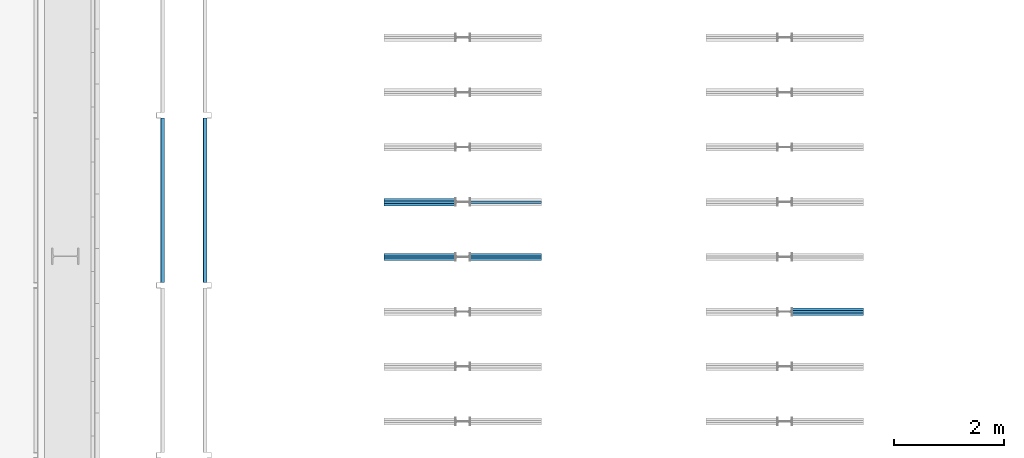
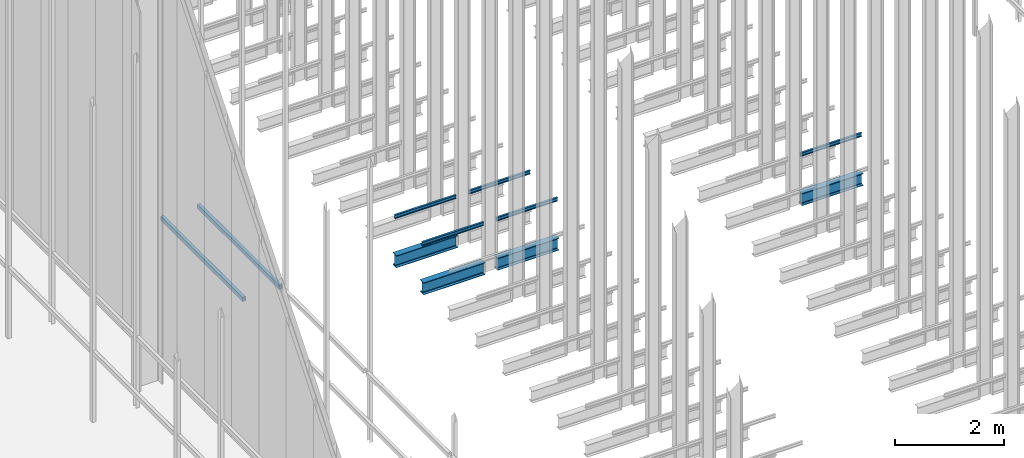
# One storey, part 171 of 302: 11 beams.
"""IFC2X3 building model written with IfcOpenShell, lengths in metres."""

import ifcopenshell
import ifcopenshell.guid

model = None  # the IFC model being written
_history = None  # IfcOwnerHistory: only IFC2X3 demands one
_inside = {}  # id of a spatial element -> (the spatial element, [elements in it])
_under = {}  # id of a project, library or spatial element -> (it, [spatial elements below it])
_declared = {}  # id of a project -> (the project, [libraries it declares])
_typed = {}  # id of a type object -> (the type object, [elements of that type])
_made_of = {}  # id of a material, layer set ... -> (it, [elements and type objects made of it])


def new_model(schema):
    """Start an empty IFC model of exactly this schema.

    Asked for "IFC4X3", IfcOpenShell would pick the latest addendum, in which some entities
    have other attributes; the version numbers below select the first issue.
    IFC2X3 requires an IfcOwnerHistory on every rooted entity: one is made here for all.
    """
    global model, _history
    if schema == "IFC4X3":
        model = ifcopenshell.file(schema_version=(4, 3, 0, 0))
    else:
        model = ifcopenshell.file(schema=schema)
    _inside.clear()
    _under.clear()
    _declared.clear()
    _typed.clear()
    _made_of.clear()
    _history = None
    if model.schema == "IFC2X3":
        org = make("IfcOrganization", Name="unknown")
        user = make(
            "IfcPersonAndOrganization",
            ThePerson=make("IfcPerson", FamilyName="unknown"),
            TheOrganization=org,
        )
        app = make(
            "IfcApplication",
            ApplicationDeveloper=org,
            Version="unknown",
            ApplicationFullName="unknown",
            ApplicationIdentifier="unknown",
        )
        _history = make(
            "IfcOwnerHistory",
            OwningUser=user,
            OwningApplication=app,
            ChangeAction="ADDED",
            CreationDate=0,
        )
    return model


def make(cls, **values):
    """One entity of the class cls with the attributes given. An attribute that is None is left unset."""
    return model.create_entity(
        cls, **{name: value for name, value in values.items() if value is not None}
    )


def entity(cls, *values):
    """Any entity or typed value of the class cls, its attributes in the order of the schema. None: left unset."""
    e = model.create_entity(cls)
    for i, value in enumerate(values):
        if value is not None:
            e[i] = value
    return e


def rooted(cls, **values):
    """An entity with a GlobalId (a new one), such as an element, a storey or a relation."""
    return make(cls, GlobalId=ifcopenshell.guid.new(), OwnerHistory=_history, **values)


def si_unit(unit_type, name, prefix=None):
    """IfcSIUnit, for example si_unit("LENGTHUNIT", "METRE", prefix="MILLI")."""
    return make("IfcSIUnit", UnitType=unit_type, Prefix=prefix, Name=name)


def converted_unit(unit_type, name, factor, base, dimensions=None, offset=None):
    """IfcConversionBasedUnit, such as the inch: factor (a typed value) times the base unit."""
    return make(
        "IfcConversionBasedUnit"
        if offset is None
        else "IfcConversionBasedUnitWithOffset",
        ConversionOffset=offset,
        Dimensions=None
        if dimensions is None
        else entity("IfcDimensionalExponents", *dimensions),
        UnitType=unit_type,
        Name=name,
        ConversionFactor=make(
            "IfcMeasureWithUnit", ValueComponent=factor, UnitComponent=base
        ),
    )


def derived_unit(unit_type, elements):
    """IfcDerivedUnit: a product of units, each with its exponent."""
    return make(
        "IfcDerivedUnit",
        Elements=[
            make("IfcDerivedUnitElement", Unit=unit, Exponent=power)
            for unit, power in elements
        ],
        UnitType=unit_type,
    )


def assignment(units):
    """IfcUnitAssignment: the units of a project."""
    return None if units is None else make("IfcUnitAssignment", Units=units)


def point(xyz):
    """IfcCartesianPoint."""
    return None if xyz is None else make("IfcCartesianPoint", Coordinates=xyz)


def direction(xyz):
    """IfcDirection."""
    return None if xyz is None else make("IfcDirection", DirectionRatios=xyz)


def frame(location, z_axis=None, x_axis=None):
    """IfcAxis2Placement3D, a coordinate frame: its origin and axes. An axis left out is left unset."""
    return make(
        "IfcAxis2Placement3D",
        Location=point(location),
        Axis=direction(z_axis),
        RefDirection=direction(x_axis),
    )


def frame_2d(location, x_axis=None):
    """IfcAxis2Placement2D, a coordinate frame in the plane: its origin and x axis."""
    return make(
        "IfcAxis2Placement2D", Location=point(location), RefDirection=direction(x_axis)
    )


def origin():
    """The frame at (0, 0, 0) with its axes left unset."""
    return frame((0.0, 0.0, 0.0))


def place(relative_to, where):
    """IfcLocalPlacement: puts the frame where relative to a parent placement (None: the world)."""
    return make(
        "IfcLocalPlacement", PlacementRelTo=relative_to, RelativePlacement=where
    )


def context(
    kind, dimensions, precision=None, world=None, true_north=None, identifier=None
):
    """IfcGeometricRepresentationContext, for example the 3D "Model" context."""
    return make(
        "IfcGeometricRepresentationContext",
        ContextIdentifier=identifier,
        ContextType=kind,
        CoordinateSpaceDimension=dimensions,
        Precision=precision,
        WorldCoordinateSystem=world,
        TrueNorth=true_north,
    )


def subcontext(parent, identifier, kind, view, scale=None):
    """IfcGeometricRepresentationSubContext, for example "Body" below "Model"."""
    return make(
        "IfcGeometricRepresentationSubContext",
        ContextIdentifier=identifier,
        ContextType=kind,
        ParentContext=parent,
        TargetScale=scale,
        TargetView=view,
    )


def project(units=None, contexts=None):
    """IfcProject with its units and contexts."""
    return rooted(
        "IfcProject",
        Name="project",
        RepresentationContexts=contexts,
        UnitsInContext=assignment(units),
    )


def spatial(cls, under=None, at=None, **own):
    """A site, building, storey or space (cls), placed at a placement, below another one or the project."""
    s = rooted(cls, ObjectPlacement=at, **own)
    if under is not None:
        _under.setdefault(under.id(), (under, []))[1].append(s)
    return s


def polyline(points):
    """IfcPolyline through the points."""
    return make("IfcPolyline", Points=[point(p) for p in points])


def circle_curve(where, radius):
    """IfcCircle in the frame where."""
    return make("IfcCircle", Position=where, Radius=radius)


def parameter(value):
    """IfcParameterValue: where a trimmed curve begins or ends, as a parameter of its basis curve."""
    return model.create_entity("IfcParameterValue", value)


def trimmed(basis, trim1, trim2, sense, master):
    """IfcTrimmedCurve: the piece of a basis curve between two trims."""
    return make(
        "IfcTrimmedCurve",
        BasisCurve=basis,
        Trim1=trim1,
        Trim2=trim2,
        SenseAgreement=sense,
        MasterRepresentation=master,
    )


def segment(curve, same_sense, transition):
    """IfcCompositeCurveSegment."""
    return make(
        "IfcCompositeCurveSegment",
        Transition=transition,
        SameSense=same_sense,
        ParentCurve=curve,
    )


def composite_curve(segments, self_intersect=None):
    """IfcCompositeCurve: segments joined end to end."""
    return make("IfcCompositeCurve", Segments=segments, SelfIntersect=self_intersect)


def profile(cls, at=None, kind="AREA", **sizes):
    """A parametric profile (cls). Its sizes go by their IFC names, for example OverallWidth=200.0."""
    return make(cls, ProfileType=kind, Position=at, **sizes)


def i_section(**sizes):
    """IfcIShapeProfileDef."""
    return profile("IfcIShapeProfileDef", **sizes)


def outline(outer, holes=None, kind="AREA"):
    """IfcArbitraryClosedProfileDef: a profile drawn as a closed curve; with holes, ...WithVoids."""
    if holes is None:
        return make("IfcArbitraryClosedProfileDef", ProfileType=kind, OuterCurve=outer)
    return make(
        "IfcArbitraryProfileDefWithVoids",
        ProfileType=kind,
        OuterCurve=outer,
        InnerCurves=holes,
    )


def extrude(swept, where, along, depth):
    """IfcExtrudedAreaSolid: the profile swept, set in the frame where, extruded along a direction by depth."""
    return make(
        "IfcExtrudedAreaSolid",
        SweptArea=swept,
        Position=where,
        ExtrudedDirection=direction(along),
        Depth=depth,
    )


def shape(context_of_items, identifier, shape_type, items):
    """IfcShapeRepresentation: the items that make up one representation, for example the "Body"."""
    return make(
        "IfcShapeRepresentation",
        ContextOfItems=context_of_items,
        RepresentationIdentifier=identifier,
        RepresentationType=shape_type,
        Items=items,
    )


def material(Name=None, Category=None):
    """IfcMaterial."""
    return make("IfcMaterial", Name=Name, Category=Category)


def made_of(thing, what):
    """Note that an element or type object is made of a material, layer set ...; save() writes the relation."""
    if what is not None:
        _made_of.setdefault(what.id(), (what, []))[1].append(thing)
    return thing


def type_object(cls, material=None, **own):
    """A type object (cls), such as IfcWallType, which elements share."""
    return made_of(rooted(cls, **own), material)


def element(
    cls,
    number,
    at=None,
    inside=None,
    cuts=None,
    type_object=None,
    material=None,
    context=None,
    identifier="Body",
    shape_type=None,
    held_by="IfcProductDefinitionShape",
    body=None,
    shapes=None,
    **own,
):
    """One element of the class cls, such as IfcWall. Its Tag is "e" and its number.

    at: its placement. inside: the storey or other place that contains it. cuts: it is an
    opening in that element (IfcRelVoidsElement). A single representation is given by context,
    identifier, shape_type and body (its items); several are given by shapes. held_by: the class
    of the entity that holds the representations. save() writes the other relations.
    """
    e = rooted(cls, Tag="e%d" % number, ObjectPlacement=at, **own)
    if body is not None:
        shapes = [shape(context, identifier, shape_type, body)]
    if shapes is not None:
        e.Representation = make(held_by, Representations=shapes)
    if inside is not None:
        _inside.setdefault(inside.id(), (inside, []))[1].append(e)
    if cuts is not None:
        rooted(
            "IfcRelVoidsElement", RelatingBuildingElement=cuts, RelatedOpeningElement=e
        )
    if type_object is not None:
        _typed.setdefault(type_object.id(), (type_object, []))[1].append(e)
    return made_of(e, material)


def aggregate(whole, parts):
    """IfcRelAggregates: a whole, such as a stair, and the parts it consists of."""
    return rooted("IfcRelAggregates", RelatingObject=whole, RelatedObjects=parts)


def save(model, path):
    """Write the relations noted so far, then the file.

    IfcRelAggregates (storeys below a building ...), IfcRelContainedInSpatialStructure (elements
    in a storey), IfcRelDefinesByType, IfcRelAssociatesMaterial and IfcRelDeclares: one each for
    every whole, place, type object, material and project.
    """
    for whole, parts in _under.values():
        aggregate(whole, parts)
    for where, things in _inside.values():
        rooted(
            "IfcRelContainedInSpatialStructure",
            RelatedElements=things,
            RelatingStructure=where,
        )
    for kind, things in _typed.values():
        rooted("IfcRelDefinesByType", RelatedObjects=things, RelatingType=kind)
    for what, things in _made_of.values():
        rooted("IfcRelAssociatesMaterial", RelatedObjects=things, RelatingMaterial=what)
    for by, libraries in _declared.values():
        rooted("IfcRelDeclares", RelatingContext=by, RelatedDefinitions=libraries)
    model.write(path)


model = new_model("IFC2X3")

# Units and contexts
model_context = context("Model", 3, precision=1e-05, world=origin(), true_north=direction((6.12303176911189e-17, 1.0)))
body_context = subcontext(model_context, "Body", "Model", "MODEL_VIEW")
ifc_project = project(units=[si_unit("LENGTHUNIT", "METRE"), si_unit("AREAUNIT", "SQUARE_METRE"), si_unit("VOLUMEUNIT", "CUBIC_METRE"), converted_unit("PLANEANGLEUNIT", "DEGREE", entity("IfcRatioMeasure", 0.0174532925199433), si_unit("PLANEANGLEUNIT", "RADIAN"), dimensions=[0, 0, 0, 0, 0, 0, 0]), si_unit("MASSUNIT", "GRAM", prefix="KILO"), derived_unit("MASSDENSITYUNIT", [(si_unit("MASSUNIT", "GRAM", prefix="KILO"), 1), (si_unit("LENGTHUNIT", "METRE"), -3)]), derived_unit("MOMENTOFINERTIAUNIT", [(si_unit("LENGTHUNIT", "METRE"), 4)]), si_unit("TIMEUNIT", "SECOND"), si_unit("FREQUENCYUNIT", "HERTZ"), si_unit("THERMODYNAMICTEMPERATUREUNIT", "DEGREE_CELSIUS"), derived_unit("THERMALTRANSMITTANCEUNIT", [(si_unit("MASSUNIT", "GRAM", prefix="KILO"), 1), (si_unit("THERMODYNAMICTEMPERATUREUNIT", "KELVIN"), -1), (si_unit("TIMEUNIT", "SECOND"), -3)]), derived_unit("VOLUMETRICFLOWRATEUNIT", [(si_unit("LENGTHUNIT", "METRE"), 3), (si_unit("TIMEUNIT", "SECOND"), -1)]), si_unit("ELECTRICCURRENTUNIT", "AMPERE"), si_unit("ELECTRICVOLTAGEUNIT", "VOLT"), si_unit("POWERUNIT", "WATT"), si_unit("FORCEUNIT", "NEWTON", prefix="KILO"), si_unit("ILLUMINANCEUNIT", "LUX"), si_unit("LUMINOUSFLUXUNIT", "LUMEN"), si_unit("LUMINOUSINTENSITYUNIT", "CANDELA"), derived_unit("USERDEFINED", [(si_unit("MASSUNIT", "GRAM", prefix="KILO"), -1), (si_unit("LENGTHUNIT", "METRE"), -2), (si_unit("TIMEUNIT", "SECOND"), 3), (si_unit("LUMINOUSFLUXUNIT", "LUMEN"), 1)]), derived_unit("LINEARVELOCITYUNIT", [(si_unit("LENGTHUNIT", "METRE"), 1), (si_unit("TIMEUNIT", "SECOND"), -1)]), si_unit("PRESSUREUNIT", "PASCAL"), derived_unit("USERDEFINED", [(si_unit("LENGTHUNIT", "METRE"), -2), (si_unit("MASSUNIT", "GRAM", prefix="KILO"), 1), (si_unit("TIMEUNIT", "SECOND"), -2)]), derived_unit("LINEARFORCEUNIT", [(si_unit("MASSUNIT", "GRAM", prefix="KILO"), 1), (si_unit("LENGTHUNIT", "METRE"), 1), (si_unit("TIMEUNIT", "SECOND"), -2), (si_unit("LENGTHUNIT", "METRE"), -1)]), derived_unit("PLANARFORCEUNIT", [(si_unit("MASSUNIT", "GRAM", prefix="KILO"), 1), (si_unit("LENGTHUNIT", "METRE"), 1), (si_unit("TIMEUNIT", "SECOND"), -2), (si_unit("LENGTHUNIT", "METRE"), -2)])], contexts=[model_context])

# Site, building, storey
site_placement = place(None, origin())
site = spatial("IfcSite", under=ifc_project, at=site_placement, Name="Default", CompositionType="ELEMENT")
building_placement = place(site_placement, origin())
building = spatial("IfcBuilding", under=site, at=building_placement, CompositionType="ELEMENT")
storey_placement = place(building_placement, frame((0.0, 0.0, -1.3)))
storey = spatial("IfcBuildingStorey", under=building, at=storey_placement, Name="00_EG", CompositionType="ELEMENT", Elevation=-1.3)

# Beams
ifc_material_1 = material(Name="Metall - Baustahl S235 blau")
beam_type_1 = type_object("IfcBeamType", Name="RHS Träger (EN 10219-2):RHS 100 x 75 x 5", PredefinedType="NOTDEFINED")
beam_1_placement = place(storey_placement, frame((-175.305111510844, 39.5480889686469, 2.885), z_axis=(0.0, 0.0, 1.0), x_axis=(0.0, 1.0, 0.0)))
element("IfcBeam", 1, at=beam_1_placement, inside=storey, type_object=beam_type_1, material=ifc_material_1, Name="RHS Träger (EN 10219-2):RHS 100 x 75 x 5", ObjectType="RHS Träger (EN 10219-2):RHS 100 x 75 x 5", context=body_context, shape_type="SweptSolid", body=[
    extrude(outline(composite_curve([segment(trimmed(circle_curve(frame_2d((-0.0274999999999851, -0.0400000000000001), x_axis=(1.0, 0.0)), 0.01), [parameter(180.0)], [parameter(270.0)], True, "PARAMETER"), True, "CONTINUOUS"), segment(polyline([(-0.0274999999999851, -0.05), (0.0274999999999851, -0.05)]), True, "CONTINUOUS"), segment(trimmed(circle_curve(frame_2d((0.0274999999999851, -0.0400000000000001), x_axis=(1.0, 0.0)), 0.01), [parameter(270.0)], [parameter(5.08888749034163e-14)], True, "PARAMETER"), True, "CONTINUOUS"), segment(polyline([(0.0375000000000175, -0.0399999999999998), (0.0375000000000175, 0.0400000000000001)]), True, "CONTINUOUS"), segment(trimmed(circle_curve(frame_2d((0.0274999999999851, 0.0399999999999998), x_axis=(1.0, 0.0)), 0.01), [parameter(360.0)], [parameter(89.9999999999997)], True, "PARAMETER"), True, "CONTINUOUS"), segment(polyline([(0.0274999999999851, 0.05), (-0.0274999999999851, 0.05)]), True, "CONTINUOUS"), segment(trimmed(circle_curve(frame_2d((-0.0274999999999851, 0.0399999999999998), x_axis=(1.0, 0.0)), 0.01), [parameter(90.0000000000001)], [parameter(180.0)], True, "PARAMETER"), True, "CONTINUOUS"), segment(polyline([(-0.0374999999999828, 0.0400000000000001), (-0.0374999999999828, -0.0399999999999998)]), True, "CONTINUOUS")], self_intersect=False), holes=[composite_curve([segment(polyline([(0.0274999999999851, -0.0450000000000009), (-0.0274999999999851, -0.0450000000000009)]), True, "CONTINUOUS"), segment(trimmed(circle_curve(frame_2d((-0.0274999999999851, -0.0400000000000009), x_axis=(1.0, 0.0)), 0.005), [parameter(180.0)], [parameter(270.0)], True, "PARAMETER"), False, "CONTINUOUS"), segment(polyline([(-0.0325000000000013, -0.0400000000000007), (-0.0325000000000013, 0.0399999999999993)]), True, "CONTINUOUS"), segment(trimmed(circle_curve(frame_2d((-0.0274999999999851, 0.039999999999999), x_axis=(1.0, 0.0)), 0.005), [parameter(90.0000000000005)], [parameter(180.0)], True, "PARAMETER"), False, "CONTINUOUS"), segment(polyline([(-0.0274999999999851, 0.0449999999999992), (0.0274999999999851, 0.0449999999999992)]), True, "CONTINUOUS"), segment(trimmed(circle_curve(frame_2d((0.0274999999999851, 0.039999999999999), x_axis=(1.0, 0.0)), 0.005), [parameter(0.0)], [parameter(90.0000000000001)], True, "PARAMETER"), False, "CONTINUOUS"), segment(polyline([(0.0325000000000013, 0.0399999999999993), (0.0325000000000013, -0.0400000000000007)]), True, "CONTINUOUS"), segment(trimmed(circle_curve(frame_2d((0.0274999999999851, -0.0400000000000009), x_axis=(1.0, 0.0)), 0.005), [parameter(270.0)], [parameter(4.07110999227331e-13)], True, "PARAMETER"), False, "CONTINUOUS")], self_intersect=False)]), frame((9.99999999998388e-05, 0.0375000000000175, -0.0500000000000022), z_axis=(1.0, 0.0, 0.0), x_axis=(0.0, -1.0, 0.0)), (0.0, 0.0, 1.0), 2.99979999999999),
])
beam_2_placement = place(storey_placement, frame((-176.155111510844, 39.5480889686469, 2.885), z_axis=(0.0, 0.0, 1.0), x_axis=(0.0, 1.0, 0.0)))
element("IfcBeam", 2, at=beam_2_placement, inside=storey, type_object=beam_type_1, material=ifc_material_1, Name="RHS Träger (EN 10219-2):RHS 100 x 75 x 5", ObjectType="RHS Träger (EN 10219-2):RHS 100 x 75 x 5", context=body_context, shape_type="SweptSolid", body=[
    extrude(outline(composite_curve([segment(polyline([(-0.0399999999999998, -0.0374999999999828), (0.0400000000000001, -0.0374999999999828)]), True, "CONTINUOUS"), segment(trimmed(circle_curve(frame_2d((0.0399999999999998, -0.0274999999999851), x_axis=(0.0, 1.0)), 0.01), [parameter(180.0)], [parameter(270.0)], True, "PARAMETER"), True, "CONTINUOUS"), segment(polyline([(0.05, -0.0274999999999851), (0.05, 0.0274999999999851)]), True, "CONTINUOUS"), segment(trimmed(circle_curve(frame_2d((0.0399999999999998, 0.0274999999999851), x_axis=(0.0, 1.0)), 0.01), [parameter(270.0)], [parameter(4.07110999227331e-13)], True, "PARAMETER"), True, "CONTINUOUS"), segment(polyline([(0.0400000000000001, 0.0375000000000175), (-0.0399999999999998, 0.0375000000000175)]), True, "CONTINUOUS"), segment(trimmed(circle_curve(frame_2d((-0.0400000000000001, 0.0274999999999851), x_axis=(0.0, 1.0)), 0.01), [parameter(360.0)], [parameter(90.0000000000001)], True, "PARAMETER"), True, "CONTINUOUS"), segment(polyline([(-0.05, 0.0274999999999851), (-0.05, -0.0274999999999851)]), True, "CONTINUOUS"), segment(trimmed(circle_curve(frame_2d((-0.0400000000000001, -0.0274999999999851), x_axis=(0.0, 1.0)), 0.01), [parameter(90.0000000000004)], [parameter(180.0)], True, "PARAMETER"), True, "CONTINUOUS")], self_intersect=False), holes=[composite_curve([segment(trimmed(circle_curve(frame_2d((-0.0400000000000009, 0.0274999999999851), x_axis=(0.0, 1.0)), 0.005), [parameter(360.0)], [parameter(89.9999999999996)], True, "PARAMETER"), False, "CONTINUOUS"), segment(polyline([(-0.0400000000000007, 0.0325000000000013), (0.0399999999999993, 0.0325000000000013)]), True, "CONTINUOUS"), segment(trimmed(circle_curve(frame_2d((0.039999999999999, 0.0274999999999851), x_axis=(0.0, 1.0)), 0.005), [parameter(270.0)], [parameter(0.0)], True, "PARAMETER"), False, "CONTINUOUS"), segment(polyline([(0.0449999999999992, 0.0274999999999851), (0.0449999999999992, -0.0274999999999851)]), True, "CONTINUOUS"), segment(trimmed(circle_curve(frame_2d((0.039999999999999, -0.0274999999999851), x_axis=(0.0, 1.0)), 0.005), [parameter(180.0)], [parameter(269.999999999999)], True, "PARAMETER"), False, "CONTINUOUS"), segment(polyline([(0.0399999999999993, -0.0325000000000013), (-0.0400000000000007, -0.0325000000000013)]), True, "CONTINUOUS"), segment(trimmed(circle_curve(frame_2d((-0.0400000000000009, -0.0274999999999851), x_axis=(0.0, 1.0)), 0.005), [parameter(90.0000000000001)], [parameter(180.0)], True, "PARAMETER"), False, "CONTINUOUS"), segment(polyline([(-0.0450000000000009, -0.0274999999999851), (-0.0450000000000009, 0.0274999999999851)]), True, "CONTINUOUS")], self_intersect=False)]), frame((9.99999999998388e-05, -0.0375000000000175, -0.0500000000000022), z_axis=(1.0, 0.0, 0.0), x_axis=(0.0, 0.0, -1.0)), (0.0, 0.0, 1.0), 2.99979999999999),
])
ifc_material_2 = material(Name="Metall - Baustahl S235")
beam_type_2 = type_object("IfcBeamType", Name="IPN Träger:IPN 80", PredefinedType="NOTDEFINED")
beam_3_placement = place(storey_placement, frame((-170.510111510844, 40.9945889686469, 2.42)))
element("IfcBeam", 3, at=beam_3_placement, inside=storey, type_object=beam_type_2, material=ifc_material_2, Name="IPN Träger:IPN 80", ObjectType="IPN Träger:IPN 80", context=body_context, shape_type="SweptSolid", body=[
    extrude(outline(composite_curve([segment(polyline([(0.0375704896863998, -0.0209999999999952), (0.0399999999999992, -0.0209999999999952)]), True, "CONTINUOUS"), segment(polyline([(0.0399999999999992, -0.0209999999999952), (0.0399999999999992, 0.0210000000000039)]), True, "CONTINUOUS"), segment(polyline([(0.039999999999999, 0.0210000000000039), (0.037570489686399, 0.0210000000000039)]), True, "CONTINUOUS"), segment(trimmed(circle_curve(frame_2d((0.0375704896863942, 0.0187000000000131), x_axis=(0.0, 1.0)), 0.0022999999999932), [parameter(0.0)], [parameter(82.0300000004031)], True, "PARAMETER"), True, "CONTINUOUS"), segment(polyline([(0.0352927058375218, 0.0190189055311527), (0.0333732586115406, 0.0053092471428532)]), True, "CONTINUOUS"), segment(trimmed(circle_curve(frame_2d((0.0295109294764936, 0.005850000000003), x_axis=(0.990340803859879, -0.138654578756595)), 0.00389999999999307), [parameter(277.969999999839)], [parameter(0.0)], True, "PARAMETER"), False, "CONTINUOUS"), segment(polyline([(0.0295109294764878, 0.00195000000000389), (-0.0295109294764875, 0.00195000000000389)]), True, "CONTINUOUS"), segment(trimmed(circle_curve(frame_2d((-0.0295109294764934, 0.005850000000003), x_axis=(0.0, -1.0)), 0.00389999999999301), [parameter(277.969999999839)], [parameter(0.0)], True, "PARAMETER"), False, "CONTINUOUS"), segment(polyline([(-0.0333732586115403, 0.0053092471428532), (-0.0352927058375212, 0.0190189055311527)]), True, "CONTINUOUS"), segment(trimmed(circle_curve(frame_2d((-0.0375704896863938, 0.0187000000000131), x_axis=(0.990340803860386, 0.138654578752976)), 0.00229999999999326), [parameter(0.0)], [parameter(82.0300000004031)], True, "PARAMETER"), True, "CONTINUOUS"), segment(polyline([(-0.0375704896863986, 0.0210000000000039), (-0.0400000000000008, 0.0210000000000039)]), True, "CONTINUOUS"), segment(polyline([(-0.0400000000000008, 0.0210000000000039), (-0.0400000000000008, -0.0209999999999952)]), True, "CONTINUOUS"), segment(polyline([(-0.0400000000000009, -0.0209999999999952), (-0.037570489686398, -0.0209999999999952)]), True, "CONTINUOUS"), segment(trimmed(circle_curve(frame_2d((-0.0375704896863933, -0.0186999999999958), x_axis=(0.0, -1.0)), 0.00229999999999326), [parameter(0.0)], [parameter(82.0300000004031)], True, "PARAMETER"), True, "CONTINUOUS"), segment(polyline([(-0.0352927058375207, -0.0190189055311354), (-0.0333732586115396, -0.00530924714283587)]), True, "CONTINUOUS"), segment(trimmed(circle_curve(frame_2d((-0.0295109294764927, -0.00584999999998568), x_axis=(-0.990340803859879, 0.138654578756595)), 0.00389999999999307), [parameter(277.969999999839)], [parameter(0.0)], True, "PARAMETER"), False, "CONTINUOUS"), segment(polyline([(-0.0295109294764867, -0.00194999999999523), (0.0295109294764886, -0.00194999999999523)]), True, "CONTINUOUS"), segment(trimmed(circle_curve(frame_2d((0.0295109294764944, -0.00584999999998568), x_axis=(0.0, 1.0)), 0.00389999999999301), [parameter(277.969999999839)], [parameter(0.0)], True, "PARAMETER"), False, "CONTINUOUS"), segment(polyline([(0.0333732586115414, -0.00530924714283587), (0.0352927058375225, -0.0190189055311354)]), True, "CONTINUOUS"), segment(trimmed(circle_curve(frame_2d((0.0375704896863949, -0.0186999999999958), x_axis=(-0.990340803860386, -0.138654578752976)), 0.00229999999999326), [parameter(0.0)], [parameter(82.0300000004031)], True, "PARAMETER"), True, "CONTINUOUS")], self_intersect=False)), frame((0.000100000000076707, 0.0209999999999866, -0.0400000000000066), z_axis=(1.0, 0.0, 0.0), x_axis=(0.0, 0.0, -1.0)), (0.0, 0.0, 1.0), 1.29990000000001),
])
beam_4_placement = place(storey_placement, frame((-170.780111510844, 41.036588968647, 2.42), z_axis=(0.0, 0.0, 1.0), x_axis=(-1.0, 0.0, 0.0)))
element("IfcBeam", 4, at=beam_4_placement, inside=storey, type_object=beam_type_2, material=ifc_material_2, Name="IPN Träger:IPN 80", ObjectType="IPN Träger:IPN 80", context=body_context, shape_type="SweptSolid", body=[
    extrude(outline(composite_curve([segment(polyline([(0.0375704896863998, -0.0210000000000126), (0.0399999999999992, -0.0210000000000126)]), True, "CONTINUOUS"), segment(polyline([(0.0399999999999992, -0.0210000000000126), (0.0399999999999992, 0.0209999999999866)]), True, "CONTINUOUS"), segment(polyline([(0.039999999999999, 0.0209999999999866), (0.037570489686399, 0.0209999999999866)]), True, "CONTINUOUS"), segment(trimmed(circle_curve(frame_2d((0.0375704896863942, 0.0186999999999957), x_axis=(0.0, 1.0)), 0.0022999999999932), [parameter(0.0)], [parameter(82.0300000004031)], True, "PARAMETER"), True, "CONTINUOUS"), segment(polyline([(0.0352927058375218, 0.0190189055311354), (0.0333732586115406, 0.00530924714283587)]), True, "CONTINUOUS"), segment(trimmed(circle_curve(frame_2d((0.0295109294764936, 0.00584999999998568), x_axis=(0.990340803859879, -0.138654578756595)), 0.00389999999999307), [parameter(277.969999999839)], [parameter(0.0)], True, "PARAMETER"), False, "CONTINUOUS"), segment(polyline([(0.0295109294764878, 0.00194999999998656), (-0.0295109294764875, 0.00194999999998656)]), True, "CONTINUOUS"), segment(trimmed(circle_curve(frame_2d((-0.0295109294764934, 0.00584999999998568), x_axis=(0.0, -1.0)), 0.00389999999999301), [parameter(277.969999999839)], [parameter(0.0)], True, "PARAMETER"), False, "CONTINUOUS"), segment(polyline([(-0.0333732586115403, 0.00530924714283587), (-0.0352927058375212, 0.0190189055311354)]), True, "CONTINUOUS"), segment(trimmed(circle_curve(frame_2d((-0.0375704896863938, 0.0186999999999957), x_axis=(0.990340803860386, 0.138654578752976)), 0.00229999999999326), [parameter(0.0)], [parameter(82.0300000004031)], True, "PARAMETER"), True, "CONTINUOUS"), segment(polyline([(-0.0375704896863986, 0.0209999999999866), (-0.0400000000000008, 0.0209999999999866)]), True, "CONTINUOUS"), segment(polyline([(-0.0400000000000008, 0.0209999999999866), (-0.0400000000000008, -0.0210000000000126)]), True, "CONTINUOUS"), segment(polyline([(-0.0400000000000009, -0.0210000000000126), (-0.037570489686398, -0.0210000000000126)]), True, "CONTINUOUS"), segment(trimmed(circle_curve(frame_2d((-0.0375704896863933, -0.0187000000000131), x_axis=(0.0, -1.0)), 0.00229999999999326), [parameter(0.0)], [parameter(82.0300000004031)], True, "PARAMETER"), True, "CONTINUOUS"), segment(polyline([(-0.0352927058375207, -0.0190189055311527), (-0.0333732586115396, -0.0053092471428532)]), True, "CONTINUOUS"), segment(trimmed(circle_curve(frame_2d((-0.0295109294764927, -0.005850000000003), x_axis=(-0.990340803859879, 0.138654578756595)), 0.00389999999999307), [parameter(277.969999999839)], [parameter(0.0)], True, "PARAMETER"), False, "CONTINUOUS"), segment(polyline([(-0.0295109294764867, -0.00195000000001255), (0.0295109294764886, -0.00195000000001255)]), True, "CONTINUOUS"), segment(trimmed(circle_curve(frame_2d((0.0295109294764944, -0.005850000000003), x_axis=(0.0, 1.0)), 0.00389999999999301), [parameter(277.969999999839)], [parameter(0.0)], True, "PARAMETER"), False, "CONTINUOUS"), segment(polyline([(0.0333732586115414, -0.0053092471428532), (0.0352927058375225, -0.0190189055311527)]), True, "CONTINUOUS"), segment(trimmed(circle_curve(frame_2d((0.0375704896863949, -0.0187000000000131), x_axis=(-0.990340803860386, -0.138654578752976)), 0.00229999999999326), [parameter(0.0)], [parameter(82.0300000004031)], True, "PARAMETER"), True, "CONTINUOUS")], self_intersect=False)), frame((0.000100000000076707, 0.0210000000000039, -0.0400000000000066), z_axis=(1.0, 0.0, 0.0), x_axis=(0.0, 0.0, -1.0)), (0.0, 0.0, 1.0), 1.29990000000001),
])
beam_5_placement = place(storey_placement, frame((-170.510111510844, 39.9945889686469, 2.42)))
element("IfcBeam", 5, at=beam_5_placement, inside=storey, type_object=beam_type_2, material=ifc_material_2, Name="IPN Träger:IPN 80", ObjectType="IPN Träger:IPN 80", context=body_context, shape_type="SweptSolid", body=[
    extrude(outline(composite_curve([segment(polyline([(0.0375704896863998, -0.0209999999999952), (0.0399999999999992, -0.0209999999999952)]), True, "CONTINUOUS"), segment(polyline([(0.0399999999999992, -0.0209999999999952), (0.0399999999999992, 0.0210000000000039)]), True, "CONTINUOUS"), segment(polyline([(0.039999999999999, 0.0210000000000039), (0.037570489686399, 0.0210000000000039)]), True, "CONTINUOUS"), segment(trimmed(circle_curve(frame_2d((0.0375704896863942, 0.0187000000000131), x_axis=(0.0, 1.0)), 0.0022999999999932), [parameter(0.0)], [parameter(82.0300000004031)], True, "PARAMETER"), True, "CONTINUOUS"), segment(polyline([(0.0352927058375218, 0.0190189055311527), (0.0333732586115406, 0.0053092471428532)]), True, "CONTINUOUS"), segment(trimmed(circle_curve(frame_2d((0.0295109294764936, 0.005850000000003), x_axis=(0.990340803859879, -0.138654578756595)), 0.00389999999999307), [parameter(277.969999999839)], [parameter(0.0)], True, "PARAMETER"), False, "CONTINUOUS"), segment(polyline([(0.0295109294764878, 0.00195000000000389), (-0.0295109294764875, 0.00195000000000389)]), True, "CONTINUOUS"), segment(trimmed(circle_curve(frame_2d((-0.0295109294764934, 0.005850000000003), x_axis=(0.0, -1.0)), 0.00389999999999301), [parameter(277.969999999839)], [parameter(0.0)], True, "PARAMETER"), False, "CONTINUOUS"), segment(polyline([(-0.0333732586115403, 0.0053092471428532), (-0.0352927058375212, 0.0190189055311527)]), True, "CONTINUOUS"), segment(trimmed(circle_curve(frame_2d((-0.0375704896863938, 0.0187000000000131), x_axis=(0.990340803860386, 0.138654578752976)), 0.00229999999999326), [parameter(0.0)], [parameter(82.0300000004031)], True, "PARAMETER"), True, "CONTINUOUS"), segment(polyline([(-0.0375704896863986, 0.0210000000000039), (-0.0400000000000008, 0.0210000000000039)]), True, "CONTINUOUS"), segment(polyline([(-0.0400000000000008, 0.0210000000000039), (-0.0400000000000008, -0.0209999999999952)]), True, "CONTINUOUS"), segment(polyline([(-0.0400000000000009, -0.0209999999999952), (-0.037570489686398, -0.0209999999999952)]), True, "CONTINUOUS"), segment(trimmed(circle_curve(frame_2d((-0.0375704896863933, -0.0186999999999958), x_axis=(0.0, -1.0)), 0.00229999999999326), [parameter(0.0)], [parameter(82.0300000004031)], True, "PARAMETER"), True, "CONTINUOUS"), segment(polyline([(-0.0352927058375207, -0.0190189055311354), (-0.0333732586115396, -0.00530924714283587)]), True, "CONTINUOUS"), segment(trimmed(circle_curve(frame_2d((-0.0295109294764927, -0.00584999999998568), x_axis=(-0.990340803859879, 0.138654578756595)), 0.00389999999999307), [parameter(277.969999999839)], [parameter(0.0)], True, "PARAMETER"), False, "CONTINUOUS"), segment(polyline([(-0.0295109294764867, -0.00194999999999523), (0.0295109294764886, -0.00194999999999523)]), True, "CONTINUOUS"), segment(trimmed(circle_curve(frame_2d((0.0295109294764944, -0.00584999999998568), x_axis=(0.0, 1.0)), 0.00389999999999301), [parameter(277.969999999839)], [parameter(0.0)], True, "PARAMETER"), False, "CONTINUOUS"), segment(polyline([(0.0333732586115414, -0.00530924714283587), (0.0352927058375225, -0.0190189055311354)]), True, "CONTINUOUS"), segment(trimmed(circle_curve(frame_2d((0.0375704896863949, -0.0186999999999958), x_axis=(-0.990340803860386, -0.138654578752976)), 0.00229999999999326), [parameter(0.0)], [parameter(82.0300000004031)], True, "PARAMETER"), True, "CONTINUOUS")], self_intersect=False)), frame((0.000100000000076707, 0.0209999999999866, -0.0400000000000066), z_axis=(1.0, 0.0, 0.0), x_axis=(0.0, 0.0, -1.0)), (0.0, 0.0, 1.0), 1.29990000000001),
])
beam_6_placement = place(storey_placement, frame((-170.780111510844, 40.036588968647, 2.42), z_axis=(0.0, 0.0, 1.0), x_axis=(-1.0, 0.0, 0.0)))
element("IfcBeam", 6, at=beam_6_placement, inside=storey, type_object=beam_type_2, material=ifc_material_2, Name="IPN Träger:IPN 80", ObjectType="IPN Träger:IPN 80", context=body_context, shape_type="SweptSolid", body=[
    extrude(outline(composite_curve([segment(polyline([(0.0375704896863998, -0.0210000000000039), (0.0399999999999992, -0.0210000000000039)]), True, "CONTINUOUS"), segment(polyline([(0.0399999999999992, -0.0210000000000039), (0.0399999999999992, 0.0209999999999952)]), True, "CONTINUOUS"), segment(polyline([(0.039999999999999, 0.0209999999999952), (0.037570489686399, 0.0209999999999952)]), True, "CONTINUOUS"), segment(trimmed(circle_curve(frame_2d((0.0375704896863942, 0.0187000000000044), x_axis=(0.0, 1.0)), 0.0022999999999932), [parameter(0.0)], [parameter(82.0300000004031)], True, "PARAMETER"), True, "CONTINUOUS"), segment(polyline([(0.0352927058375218, 0.019018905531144), (0.0333732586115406, 0.00530924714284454)]), True, "CONTINUOUS"), segment(trimmed(circle_curve(frame_2d((0.0295109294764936, 0.00584999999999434), x_axis=(0.990340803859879, -0.138654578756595)), 0.00389999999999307), [parameter(277.969999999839)], [parameter(0.0)], True, "PARAMETER"), False, "CONTINUOUS"), segment(polyline([(0.0295109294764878, 0.00194999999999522), (-0.0295109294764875, 0.00194999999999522)]), True, "CONTINUOUS"), segment(trimmed(circle_curve(frame_2d((-0.0295109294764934, 0.00584999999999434), x_axis=(0.0, -1.0)), 0.00389999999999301), [parameter(277.969999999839)], [parameter(0.0)], True, "PARAMETER"), False, "CONTINUOUS"), segment(polyline([(-0.0333732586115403, 0.00530924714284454), (-0.0352927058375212, 0.019018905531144)]), True, "CONTINUOUS"), segment(trimmed(circle_curve(frame_2d((-0.0375704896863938, 0.0187000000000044), x_axis=(0.990340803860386, 0.138654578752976)), 0.00229999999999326), [parameter(0.0)], [parameter(82.0300000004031)], True, "PARAMETER"), True, "CONTINUOUS"), segment(polyline([(-0.0375704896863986, 0.0209999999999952), (-0.0400000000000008, 0.0209999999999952)]), True, "CONTINUOUS"), segment(polyline([(-0.0400000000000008, 0.0209999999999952), (-0.0400000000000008, -0.0210000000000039)]), True, "CONTINUOUS"), segment(polyline([(-0.0400000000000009, -0.0210000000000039), (-0.037570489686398, -0.0210000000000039)]), True, "CONTINUOUS"), segment(trimmed(circle_curve(frame_2d((-0.0375704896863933, -0.0187000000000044), x_axis=(0.0, -1.0)), 0.00229999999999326), [parameter(0.0)], [parameter(82.0300000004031)], True, "PARAMETER"), True, "CONTINUOUS"), segment(polyline([(-0.0352927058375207, -0.019018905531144), (-0.0333732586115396, -0.00530924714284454)]), True, "CONTINUOUS"), segment(trimmed(circle_curve(frame_2d((-0.0295109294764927, -0.00584999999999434), x_axis=(-0.990340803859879, 0.138654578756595)), 0.00389999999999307), [parameter(277.969999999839)], [parameter(0.0)], True, "PARAMETER"), False, "CONTINUOUS"), segment(polyline([(-0.0295109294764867, -0.00195000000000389), (0.0295109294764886, -0.00195000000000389)]), True, "CONTINUOUS"), segment(trimmed(circle_curve(frame_2d((0.0295109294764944, -0.00584999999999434), x_axis=(0.0, 1.0)), 0.00389999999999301), [parameter(277.969999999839)], [parameter(0.0)], True, "PARAMETER"), False, "CONTINUOUS"), segment(polyline([(0.0333732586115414, -0.00530924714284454), (0.0352927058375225, -0.019018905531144)]), True, "CONTINUOUS"), segment(trimmed(circle_curve(frame_2d((0.0375704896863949, -0.0187000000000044), x_axis=(-0.990340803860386, -0.138654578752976)), 0.00229999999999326), [parameter(0.0)], [parameter(82.0300000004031)], True, "PARAMETER"), True, "CONTINUOUS")], self_intersect=False)), frame((0.000100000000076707, 0.0209999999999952, -0.0400000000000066), z_axis=(1.0, 0.0, 0.0), x_axis=(0.0, 0.0, -1.0)), (0.0, 0.0, 1.0), 1.29990000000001),
])
beam_7_placement = place(storey_placement, frame((-164.640111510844, 38.994588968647, 2.42)))
element("IfcBeam", 7, at=beam_7_placement, inside=storey, type_object=beam_type_2, material=ifc_material_2, Name="IPN Träger:IPN 80", ObjectType="IPN Träger:IPN 80", context=body_context, shape_type="SweptSolid", body=[
    extrude(outline(composite_curve([segment(polyline([(0.0375704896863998, -0.0209999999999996), (0.0399999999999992, -0.0209999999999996)]), True, "CONTINUOUS"), segment(polyline([(0.0399999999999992, -0.0210000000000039), (0.0399999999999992, 0.0209999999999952)]), True, "CONTINUOUS"), segment(polyline([(0.039999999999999, 0.0209999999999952), (0.037570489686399, 0.0209999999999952)]), True, "CONTINUOUS"), segment(trimmed(circle_curve(frame_2d((0.0375704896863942, 0.0187000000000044), x_axis=(0.0, 1.0)), 0.0022999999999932), [parameter(0.0)], [parameter(82.0300000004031)], True, "PARAMETER"), True, "CONTINUOUS"), segment(polyline([(0.0352927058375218, 0.019018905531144), (0.0333732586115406, 0.00530924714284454)]), True, "CONTINUOUS"), segment(trimmed(circle_curve(frame_2d((0.0295109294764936, 0.00584999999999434), x_axis=(0.990340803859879, -0.138654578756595)), 0.00389999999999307), [parameter(277.969999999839)], [parameter(0.0)], True, "PARAMETER"), False, "CONTINUOUS"), segment(polyline([(0.0295109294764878, 0.00194999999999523), (-0.0295109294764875, 0.00194999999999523)]), True, "CONTINUOUS"), segment(trimmed(circle_curve(frame_2d((-0.0295109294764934, 0.00584999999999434), x_axis=(0.0, -1.0)), 0.00389999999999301), [parameter(277.969999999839)], [parameter(0.0)], True, "PARAMETER"), False, "CONTINUOUS"), segment(polyline([(-0.0333732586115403, 0.00530924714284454), (-0.0352927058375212, 0.019018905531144)]), True, "CONTINUOUS"), segment(trimmed(circle_curve(frame_2d((-0.0375704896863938, 0.0187000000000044), x_axis=(0.990340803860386, 0.138654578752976)), 0.00229999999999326), [parameter(0.0)], [parameter(82.0300000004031)], True, "PARAMETER"), True, "CONTINUOUS"), segment(polyline([(-0.0375704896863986, 0.0209999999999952), (-0.0400000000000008, 0.0209999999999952)]), True, "CONTINUOUS"), segment(polyline([(-0.0400000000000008, 0.0210000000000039), (-0.0400000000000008, -0.0209999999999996)]), True, "CONTINUOUS"), segment(polyline([(-0.0400000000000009, -0.0209999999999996), (-0.037570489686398, -0.0209999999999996)]), True, "CONTINUOUS"), segment(trimmed(circle_curve(frame_2d((-0.0375704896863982, -0.0187000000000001), x_axis=(0.0, -1.0)), 0.00230000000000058), [parameter(0.0)], [parameter(82.029999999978)], True, "PARAMETER"), True, "CONTINUOUS"), segment(polyline([(-0.0352927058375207, -0.0190189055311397), (-0.0333732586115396, -0.00530924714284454)]), True, "CONTINUOUS"), segment(trimmed(circle_curve(frame_2d((-0.0295109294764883, -0.00584999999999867), x_axis=(-0.990340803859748, 0.138654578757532)), 0.00389999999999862), [parameter(277.969999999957)], [parameter(0.0)], True, "PARAMETER"), False, "CONTINUOUS"), segment(polyline([(-0.0295109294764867, -0.00194999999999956), (0.0295109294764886, -0.00194999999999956)]), True, "CONTINUOUS"), segment(trimmed(circle_curve(frame_2d((0.0295109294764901, -0.00584999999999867), x_axis=(0.0, 1.0)), 0.00389999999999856), [parameter(277.969999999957)], [parameter(0.0)], True, "PARAMETER"), False, "CONTINUOUS"), segment(polyline([(0.0333732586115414, -0.00530924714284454), (0.0352927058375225, -0.019018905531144)]), True, "CONTINUOUS"), segment(trimmed(circle_curve(frame_2d((0.0375704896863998, -0.0187000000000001), x_axis=(-0.990340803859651, -0.138654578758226)), 0.00230000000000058), [parameter(0.0)], [parameter(82.029999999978)], True, "PARAMETER"), True, "CONTINUOUS")], self_intersect=False)), frame((9.99999999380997e-05, 0.0209999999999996, -0.0400000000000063), z_axis=(1.0, 0.0, 0.0), x_axis=(0.0, 0.0, -1.0)), (0.0, 0.0, 1.0), 1.29990000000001),
])
beam_type_3 = type_object("IfcBeamType", Name="IPE Träger:IPE 270", PredefinedType="NOTDEFINED")
beam_8_placement = place(storey_placement, frame((-170.780111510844, 40.083088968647, 1.54000000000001), z_axis=(0.0, 0.0, 1.0), x_axis=(-1.0, 0.0, 0.0)))
element("IfcBeam", 8, at=beam_8_placement, inside=storey, type_object=beam_type_3, material=ifc_material_2, Name="IPE Träger:IPE 270", ObjectType="IPE Träger:IPE 270", context=body_context, shape_type="SweptSolid", body=[
    extrude(i_section(OverallWidth=0.134999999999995, OverallDepth=0.27, WebThickness=0.0065999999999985, FlangeThickness=0.0102000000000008, FilletRadius=0.0149999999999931, at=frame_2d((5.96744875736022e-16, 0.0), x_axis=(0.0, 1.0))), frame((0.000100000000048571, 0.067500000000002, -0.135000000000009), z_axis=(1.0, 0.0, 0.0), x_axis=(0.0, 0.0, -1.0)), (0.0, 0.0, 1.0), 1.29990000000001),
])
beam_9_placement = place(storey_placement, frame((-170.510111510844, 40.083088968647, 1.54000000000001)))
element("IfcBeam", 9, at=beam_9_placement, inside=storey, type_object=beam_type_3, material=ifc_material_2, Name="IPE Träger:IPE 270", ObjectType="IPE Träger:IPE 270", context=body_context, shape_type="SweptSolid", body=[
    extrude(i_section(OverallWidth=0.134999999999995, OverallDepth=0.27, WebThickness=0.0065999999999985, FlangeThickness=0.0102000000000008, FilletRadius=0.0149999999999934, at=frame_2d((5.96744875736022e-16, 8.66667848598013e-15), x_axis=(0.0, 1.0))), frame((0.000100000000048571, -0.0675000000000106, -0.135000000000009), z_axis=(1.0, 0.0, 0.0), x_axis=(0.0, 0.0, -1.0)), (0.0, 0.0, 1.0), 1.29990000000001),
])
beam_10_placement = place(storey_placement, frame((-170.780111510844, 41.0830889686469, 1.54000000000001), z_axis=(0.0, 0.0, 1.0), x_axis=(-1.0, 0.0, 0.0)))
element("IfcBeam", 10, at=beam_10_placement, inside=storey, type_object=beam_type_3, material=ifc_material_2, Name="IPE Träger:IPE 270", ObjectType="IPE Träger:IPE 270", context=body_context, shape_type="SweptSolid", body=[
    extrude(i_section(OverallWidth=0.134999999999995, OverallDepth=0.27, WebThickness=0.0065999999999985, FlangeThickness=0.0102000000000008, FilletRadius=0.0149999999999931, at=frame_2d((5.96744875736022e-16, 0.0), x_axis=(0.0, 1.0))), frame((0.000100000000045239, 0.067500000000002, -0.135000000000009), z_axis=(1.0, 0.0, 0.0), x_axis=(0.0, 0.0, -1.0)), (0.0, 0.0, 1.0), 1.29990000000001),
])
beam_11_placement = place(storey_placement, frame((-164.640111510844, 39.083088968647, 1.54000000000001)))
element("IfcBeam", 11, at=beam_11_placement, inside=storey, type_object=beam_type_3, material=ifc_material_2, Name="IPE Träger:IPE 270", ObjectType="IPE Träger:IPE 270", context=body_context, shape_type="SweptSolid", body=[
    extrude(i_section(OverallWidth=0.134999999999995, OverallDepth=0.27, WebThickness=0.00660000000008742, FlangeThickness=0.0102000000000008, FilletRadius=0.0150000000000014, at=frame_2d((5.82867087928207e-16, -4.32986979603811e-15), x_axis=(0.0, 1.0))), frame((9.99999999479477e-05, -0.0674999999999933, -0.135000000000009), z_axis=(1.0, 0.0, 0.0), x_axis=(0.0, 0.0, -1.0)), (0.0, 0.0, 1.0), 1.29990000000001),
])

save(model, "model.ifc")
